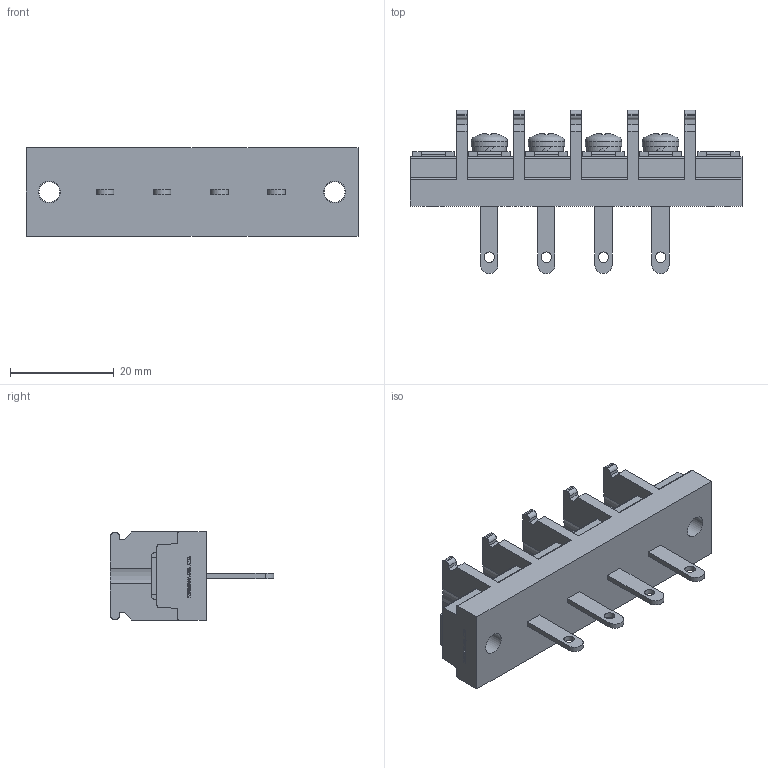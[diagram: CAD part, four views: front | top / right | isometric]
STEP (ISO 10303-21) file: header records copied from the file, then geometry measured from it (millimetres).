
FILE_DESCRIPTION(/* description */ ('Alibre Inc.'),/* implementation_level */ '2;1');
FILE_NAME(/* name */ 'export0',/* time_stamp */ '2015-10-19T19:14:16+09:00',/* author */ (''),/* organization */ (''),/* preprocessor_version */ 'ST-DEVELOPER v14',/* originating_system */ 'Alibre',/* authorisation */ '');
FILE_SCHEMA (('CONFIG_CONTROL_DESIGN'));
Length unit declared in the file: centimetre
Products named in the file (1): ID_1
Bounding box: 64 x 31.5 x 17 mm (x, y, z)
Volume: 11381.7 mm3; surface area: 6831.9 mm2
Topology: 1 solids, 1 shells, 748 faces, 2064 edges, 1374 vertices
Faces by surface type: plane 526, bspline 104, cylinder 90, cone 16, torus 8, sphere 4
Full cylindrical faces by diameter (mm): 2 x4, 4 x6, 4.2 x2, 6.5 x4, 7 x4
Entity records: 23097 total; most frequent: CARTESIAN_POINT 5172, ORIENTED_EDGE 4044, DIRECTION 2823, EDGE_CURVE 2022, VECTOR 1477, LINE 1477, VERTEX_POINT 1356, AXIS2_PLACEMENT_3D 931
